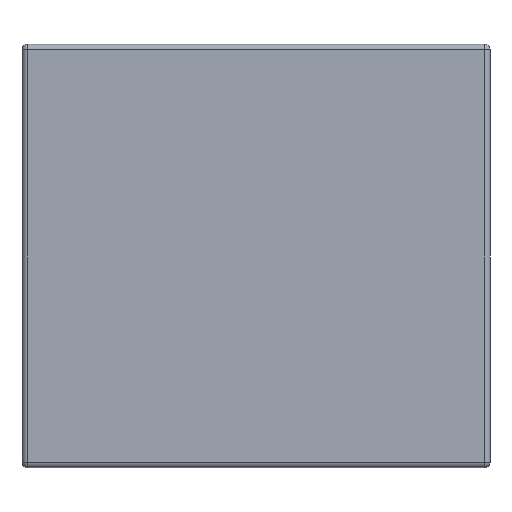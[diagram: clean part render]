
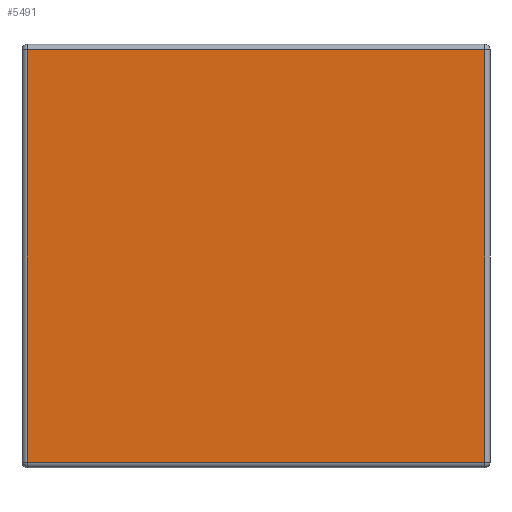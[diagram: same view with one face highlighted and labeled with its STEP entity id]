
A CAD part, front view. The second image highlights one B-rep face of the part: STEP entity #5491.
In plain terms, the highlighted planar face has unit normal (0, -1, 0).
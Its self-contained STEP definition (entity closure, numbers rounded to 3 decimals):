
#109 = VERTEX_POINT ( 'NONE', #861 ) ;
#385 = ORIENTED_EDGE ( 'NONE', *, *, #11884, .T. ) ;
#721 = VECTOR ( 'NONE', #6864, 1000. ) ;
#861 = CARTESIAN_POINT ( 'NONE',  ( -102.6, 0., 92.6 ) ) ;
#1012 = CARTESIAN_POINT ( 'NONE',  ( 102.6, 0., 95. ) ) ;
#1950 = VERTEX_POINT ( 'NONE', #6333 ) ;
#2034 = EDGE_CURVE ( 'NONE', #109, #7667, #11594, .T. ) ;
#3999 = DIRECTION ( 'NONE',  ( 1., 0., 0. ) ) ;
#4468 = CARTESIAN_POINT ( 'NONE',  ( -102.6, 0., -92.6 ) ) ;
#4499 = DIRECTION ( 'NONE',  ( 0., 0., -1. ) ) ;
#4712 = VECTOR ( 'NONE', #4499, 1000. ) ;
#5450 = LINE ( 'NONE', #18349, #8875 ) ;
#5491 = ADVANCED_FACE ( 'NONE', ( #6641 ), #12212, .T. ) ;
#6333 = CARTESIAN_POINT ( 'NONE',  ( 102.6, 0., 92.6 ) ) ;
#6345 = CARTESIAN_POINT ( 'NONE',  ( 102.6, 0., -92.6 ) ) ;
#6373 = CARTESIAN_POINT ( 'NONE',  ( -105., 0., 92.6 ) ) ;
#6413 = EDGE_LOOP ( 'NONE', ( #385, #16063, #8790, #16140 ) ) ;
#6641 = FACE_OUTER_BOUND ( 'NONE', #6413, .T. ) ;
#6864 = DIRECTION ( 'NONE',  ( 0., 0., 1. ) ) ;
#7667 = VERTEX_POINT ( 'NONE', #4468 ) ;
#7822 = EDGE_CURVE ( 'NONE', #1950, #109, #12324, .T. ) ;
#8633 = DIRECTION ( 'NONE',  ( 0., 0., -1. ) ) ;
#8790 = ORIENTED_EDGE ( 'NONE', *, *, #7822, .T. ) ;
#8875 = VECTOR ( 'NONE', #3999, 1000. ) ;
#10801 = CARTESIAN_POINT ( 'NONE',  ( 0., 0., 0. ) ) ;
#11594 = LINE ( 'NONE', #14603, #4712 ) ;
#11884 = EDGE_CURVE ( 'NONE', #7667, #18928, #5450, .T. ) ;
#12212 = PLANE ( 'NONE',  #15741 ) ;
#12224 = DIRECTION ( 'NONE',  ( -1., 0., 0. ) ) ;
#12324 = LINE ( 'NONE', #6373, #16418 ) ;
#14603 = CARTESIAN_POINT ( 'NONE',  ( -102.6, 0., 0. ) ) ;
#15741 = AXIS2_PLACEMENT_3D ( 'NONE', #10801, #16566, #8633 ) ;
#16063 = ORIENTED_EDGE ( 'NONE', *, *, #16987, .T. ) ;
#16140 = ORIENTED_EDGE ( 'NONE', *, *, #2034, .T. ) ;
#16418 = VECTOR ( 'NONE', #12224, 1000. ) ;
#16566 = DIRECTION ( 'NONE',  ( 0., -1., 0. ) ) ;
#16987 = EDGE_CURVE ( 'NONE', #18928, #1950, #18257, .T. ) ;
#18257 = LINE ( 'NONE', #1012, #721 ) ;
#18349 = CARTESIAN_POINT ( 'NONE',  ( 0., 0., -92.6 ) ) ;
#18928 = VERTEX_POINT ( 'NONE', #6345 ) ;
